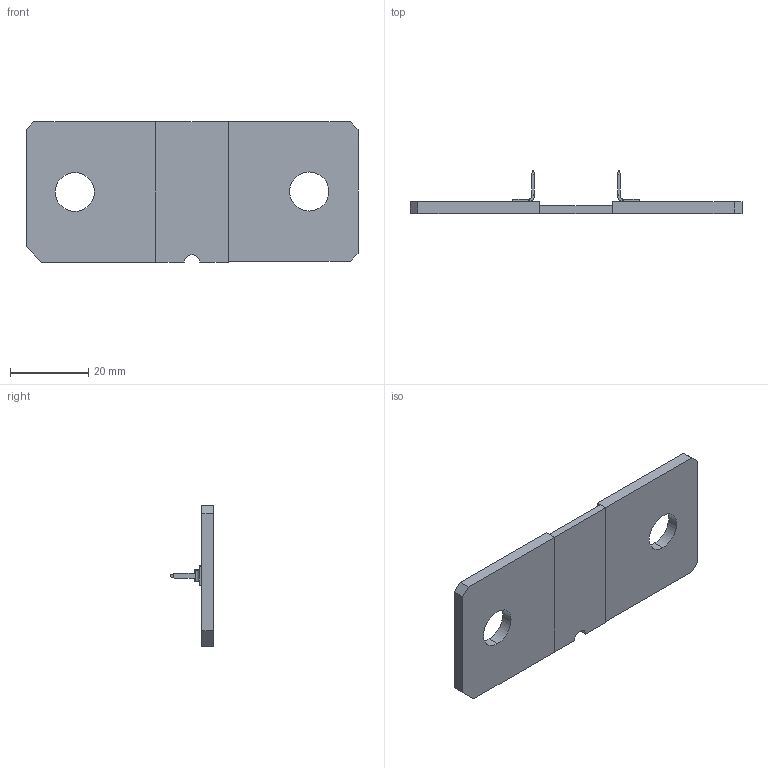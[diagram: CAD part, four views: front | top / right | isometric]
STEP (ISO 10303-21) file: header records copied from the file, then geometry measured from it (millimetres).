
FILE_DESCRIPTION (( 'STEP AP214' ), '1' );
FILE_NAME ('WSBS8536-20 100 microohm.STEP', '2021-03-09T15:42:15', ( '' ), ( '' ), 'SwSTEP 2.0', 'SolidWorks 2019', '' );
FILE_SCHEMA (( 'AUTOMOTIVE_DESIGN' ));
Length unit declared in the file: inch
Products named in the file (5): Left Terminal WSBS 8536 100 microohm; WSBS8536-20 100 microohm; Right Terminal WSBS 8536 100 microohm; Element WSBS 8536 100 microohm; SHUNT TERMINAL - VISHAY
Assembly tree (5 placements, depth 2):
  WSBS8536-20 100 microohm
    Element WSBS 8536 100 microohm
    Left Terminal WSBS 8536 100 microohm
    Right Terminal WSBS 8536 100 microohm
    SHUNT TERMINAL - VISHAY  x2
Bounding box: 84.99 x 10.99 x 35.99 mm (x, y, z)
Volume: 7982.1 mm3; surface area: 7143.7 mm2
Topology: 5 solids, 5 shells, 101 faces, 257 edges, 166 vertices
Faces by surface type: plane 67, cylinder 26, bspline 8
Entity records: 2261 total; most frequent: CARTESIAN_POINT 482, ORIENTED_EDGE 326, DIRECTION 317, EDGE_CURVE 163, LINE 115, VECTOR 115, VERTEX_POINT 106, AXIS2_PLACEMENT_3D 101
